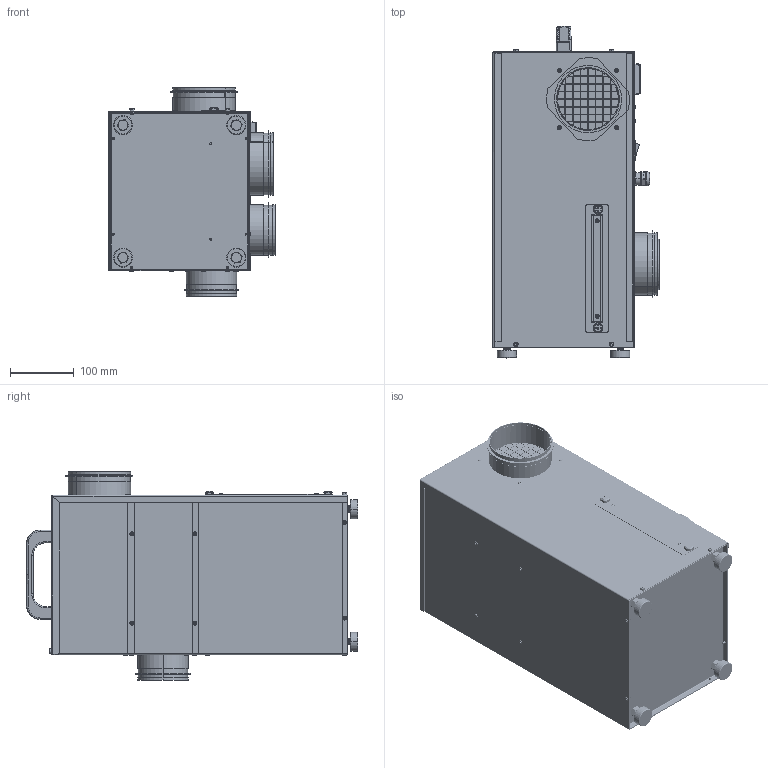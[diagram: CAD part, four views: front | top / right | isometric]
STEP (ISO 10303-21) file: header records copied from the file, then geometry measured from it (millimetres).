
FILE_DESCRIPTION (( 'STEP AP203' ), '1' );
FILE_NAME ('DR-010B Assembly.STEP', '2021-09-23T08:48:40', ( '' ), ( '' ), 'SwSTEP 2.0', 'SolidWorks 2021', '' );
FILE_SCHEMA (( 'CONFIG_CONTROL_DESIGN' ));
Products named in the file (1): DR-010B Assembly
Bounding box: 261.25 x 521 x 328 mm (x, y, z)
Volume: 24512028.2 mm3; surface area: 1630136.6 mm2
Topology: 32 solids, 62 shells, 4156 faces, 9891 edges, 6132 vertices
Faces by surface type: plane 1833, cylinder 1140, cone 659, torus 416, bspline 92, sphere 16
Entity records: 126391 total; most frequent: CARTESIAN_POINT 27943, DIRECTION 21214, ORIENTED_EDGE 19766, EDGE_CURVE 9883, AXIS2_PLACEMENT_3D 7713, VERTEX_POINT 6132, VECTOR 5788, LINE 5788
